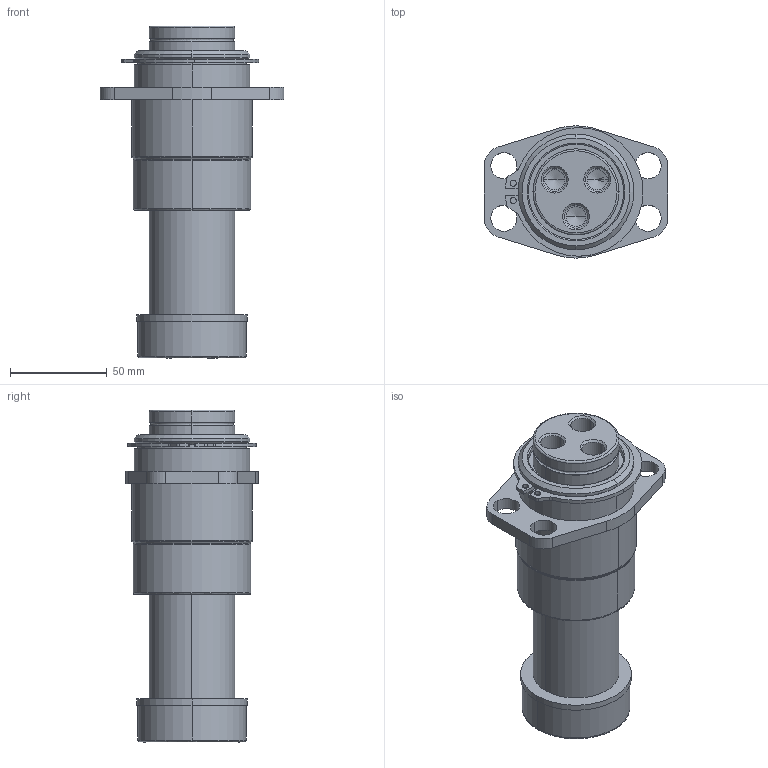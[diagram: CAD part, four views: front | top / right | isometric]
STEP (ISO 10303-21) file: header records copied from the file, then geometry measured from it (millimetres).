
FILE_DESCRIPTION (( 'STEP AP214' ), '1' );
FILE_NAME ('GK180-N3-1-BP-M-XXX.STEP', '2020-09-22T11:23:01', ( '' ), ( '' ), 'SwSTEP 2.0', 'SolidWorks 2017', '' );
FILE_SCHEMA (( 'AUTOMOTIVE_DESIGN' ));
Length unit declared in the file: inch
Products named in the file (7): GK1.75-N3-1-BP-Base; GK180-DampeningWasher; GK180-M-XXX-GuidePin; RetainingRing; GK180-N3-1-BP-M-XXX
Assembly tree (6 placements, depth 3):
  GK180-N3-1-BP-M-XXX
    GK1.75-N3-1-BP-Base
      GK1.75-N3-1-BP-Base
      RetainingRing
    GK180-M-XXX-GuidePin
      GK180-M-XXX-GuidePin
      GK180-DampeningWasher
Bounding box: 94.79 x 68.33 x 171.45 mm (x, y, z)
Volume: 398209.4 mm3; surface area: 74420.4 mm2
Topology: 4 solids, 4 shells, 151 faces, 346 edges, 210 vertices
Faces by surface type: cylinder 71, bspline 30, plane 26, cone 24
Entity records: 6070 total; most frequent: CARTESIAN_POINT 2270, DIRECTION 744, ORIENTED_EDGE 680, EDGE_CURVE 340, AXIS2_PLACEMENT_3D 304, VERTEX_POINT 210, EDGE_LOOP 180, CIRCLE 172
